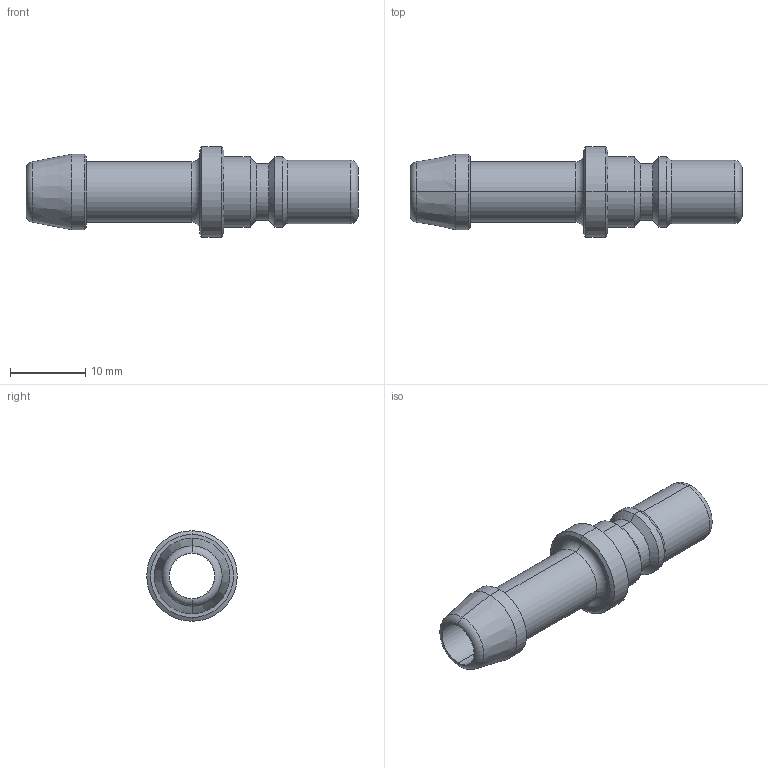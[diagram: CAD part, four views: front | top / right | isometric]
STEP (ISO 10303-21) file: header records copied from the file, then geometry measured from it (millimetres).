
FILE_DESCRIPTION (( 'STEP AP203' ), '1' );
FILE_NAME ('101-06 HU-08.STEP', '2021-10-21T14:21:11', ( '' ), ( '' ), 'SwSTEP 2.0', 'SolidWorks 2018', '' );
FILE_SCHEMA (( 'CONFIG_CONTROL_DESIGN' ));
Length unit declared in the file: millimetre
Products named in the file (1): 101-06 HU-08
Bounding box: 44 x 12 x 12 mm (x, y, z)
Volume: 1418.1 mm3; surface area: 2195.3 mm2
Topology: 1 solids, 1 shells, 41 faces, 82 edges, 46 vertices
Faces by surface type: cylinder 16, cone 14, torus 6, plane 5
Entity records: 1141 total; most frequent: DIRECTION 218, CARTESIAN_POINT 170, ORIENTED_EDGE 164, AXIS2_PLACEMENT_3D 94, EDGE_CURVE 82, CIRCLE 52, VERTEX_POINT 46, EDGE_LOOP 46
